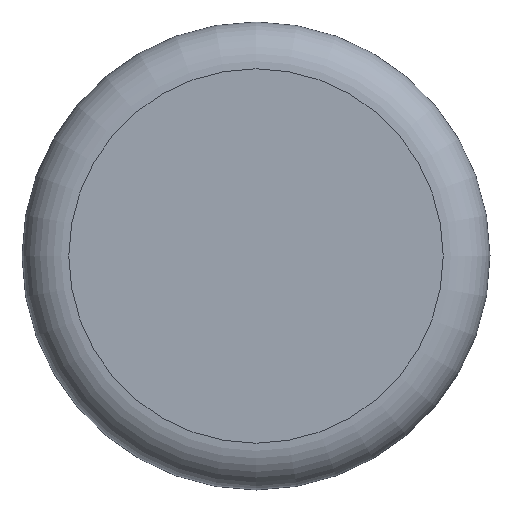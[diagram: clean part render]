
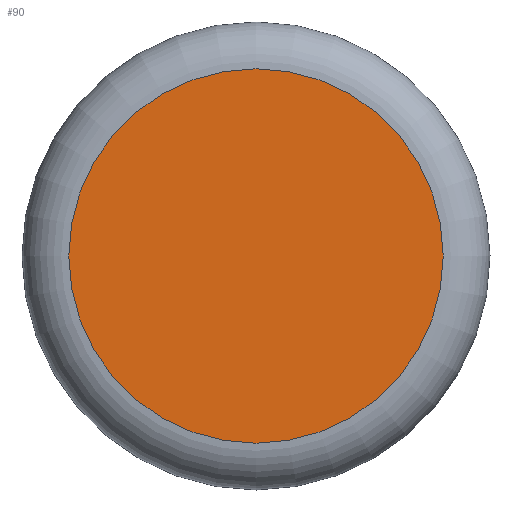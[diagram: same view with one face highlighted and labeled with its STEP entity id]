
A CAD part, front view. The second image highlights one B-rep face of the part: STEP entity #90.
In plain terms, the highlighted planar face has unit normal (0, -1, 0).
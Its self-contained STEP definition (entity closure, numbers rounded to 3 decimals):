
#17 = DIRECTION ( 'NONE',  ( 0., 0., 1. ) ) ;
#28 = CIRCLE ( 'NONE', #61, 12. ) ;
#35 = FACE_OUTER_BOUND ( 'NONE', #113, .T. ) ;
#46 = DIRECTION ( 'NONE',  ( 0., -1., 0. ) ) ;
#61 = AXIS2_PLACEMENT_3D ( 'NONE', #133, #46, #67 ) ;
#63 = CARTESIAN_POINT ( 'NONE',  ( 0., 0., 12. ) ) ;
#67 = DIRECTION ( 'NONE',  ( 0., 0., 1. ) ) ;
#69 = DIRECTION ( 'NONE',  ( 0., 1., 0. ) ) ;
#80 = AXIS2_PLACEMENT_3D ( 'NONE', #122, #69, #17 ) ;
#90 = ADVANCED_FACE ( 'NONE', ( #35 ), #136, .F. ) ;
#113 = EDGE_LOOP ( 'NONE', ( #130 ) ) ;
#119 = EDGE_CURVE ( 'NONE', #143, #143, #28, .T. ) ;
#122 = CARTESIAN_POINT ( 'NONE',  ( 0., 0., 0. ) ) ;
#130 = ORIENTED_EDGE ( 'NONE', *, *, #119, .T. ) ;
#133 = CARTESIAN_POINT ( 'NONE',  ( 0., 0., 0. ) ) ;
#136 = PLANE ( 'NONE',  #80 ) ;
#143 = VERTEX_POINT ( 'NONE', #63 ) ;
